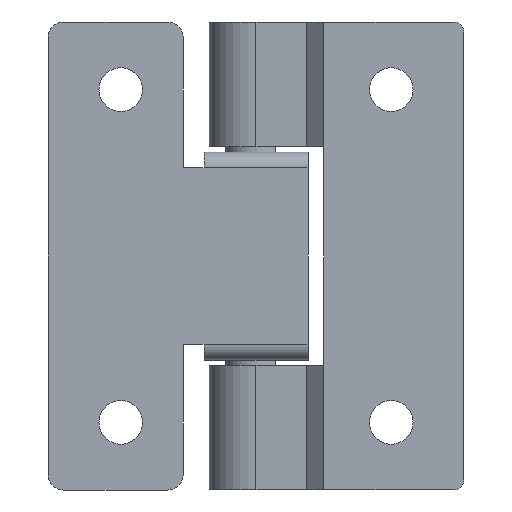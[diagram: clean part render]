
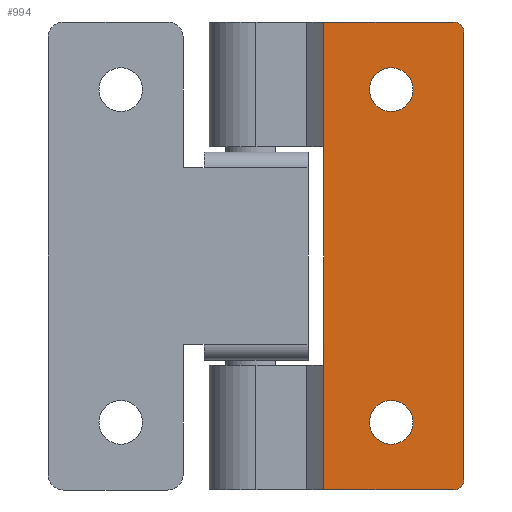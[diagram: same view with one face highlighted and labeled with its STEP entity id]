
A CAD part, front view. The second image highlights one B-rep face of the part: STEP entity #994.
In plain terms, the highlighted planar face has unit normal (0, -1, 0).
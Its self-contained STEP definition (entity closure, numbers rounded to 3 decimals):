
#137 = CARTESIAN_POINT ( 'NONE',  ( 13., -6., 16. ) ) ;
#418 = DIRECTION ( 'NONE',  ( 0., 0., -1. ) ) ;
#437 = EDGE_CURVE ( 'NONE', #1807, #2789, #592, .T. ) ;
#565 = EDGE_LOOP ( 'NONE', ( #10147, #3351 ) ) ;
#592 = LINE ( 'NONE', #4096, #5525 ) ;
#809 = EDGE_CURVE ( 'NONE', #3882, #8980, #2208, .T. ) ;
#928 = VERTEX_POINT ( 'NONE', #5814 ) ;
#955 = AXIS2_PLACEMENT_3D ( 'NONE', #2352, #2524, #4277 ) ;
#994 = ADVANCED_FACE ( 'NONE', ( #11157, #1544, #6826 ), #5973, .F. ) ;
#1079 = LINE ( 'NONE', #6294, #1320 ) ;
#1143 = EDGE_CURVE ( 'NONE', #6778, #4264, #8092, .T. ) ;
#1149 = AXIS2_PLACEMENT_3D ( 'NONE', #8565, #11070, #6905 ) ;
#1256 = ORIENTED_EDGE ( 'NONE', *, *, #6813, .F. ) ;
#1272 = CARTESIAN_POINT ( 'NONE',  ( 6.5, -6., 22.5 ) ) ;
#1320 = VECTOR ( 'NONE', #1974, 1000. ) ;
#1439 = EDGE_LOOP ( 'NONE', ( #3232, #1585, #9322, #10801, #8422, #2007, #1256, #10160 ) ) ;
#1494 = DIRECTION ( 'NONE',  ( 1., 0., 0. ) ) ;
#1504 = LINE ( 'NONE', #5017, #7642 ) ;
#1510 = CARTESIAN_POINT ( 'NONE',  ( 6.5, -6., 10.5 ) ) ;
#1532 = ORIENTED_EDGE ( 'NONE', *, *, #2180, .T. ) ;
#1544 = FACE_BOUND ( 'NONE', #565, .T. ) ;
#1585 = ORIENTED_EDGE ( 'NONE', *, *, #8924, .T. ) ;
#1732 = CARTESIAN_POINT ( 'NONE',  ( 6.5, -6., 10.5 ) ) ;
#1779 = EDGE_CURVE ( 'NONE', #928, #4642, #1079, .T. ) ;
#1807 = VERTEX_POINT ( 'NONE', #5448 ) ;
#1880 = DIRECTION ( 'NONE',  ( 0., 1., 0. ) ) ;
#1953 = DIRECTION ( 'NONE',  ( 0., 0., 1. ) ) ;
#1974 = DIRECTION ( 'NONE',  ( 0., 0., -1. ) ) ;
#2007 = ORIENTED_EDGE ( 'NONE', *, *, #1779, .T. ) ;
#2180 = EDGE_CURVE ( 'NONE', #7441, #6814, #4630, .T. ) ;
#2208 = CIRCLE ( 'NONE', #955, 1. ) ;
#2315 = VERTEX_POINT ( 'NONE', #3501 ) ;
#2352 = CARTESIAN_POINT ( 'NONE',  ( 19., -6., 21.5 ) ) ;
#2524 = DIRECTION ( 'NONE',  ( 0., -1., 0. ) ) ;
#2789 = VERTEX_POINT ( 'NONE', #3298 ) ;
#3111 = EDGE_LOOP ( 'NONE', ( #10307, #1532 ) ) ;
#3232 = ORIENTED_EDGE ( 'NONE', *, *, #437, .T. ) ;
#3298 = CARTESIAN_POINT ( 'NONE',  ( 19., -6., -22.5 ) ) ;
#3351 = ORIENTED_EDGE ( 'NONE', *, *, #7239, .T. ) ;
#3365 = CIRCLE ( 'NONE', #11057, 2.1 ) ;
#3429 = CARTESIAN_POINT ( 'NONE',  ( 13., -6., 16. ) ) ;
#3442 = DIRECTION ( 'NONE',  ( 0., 0., 1. ) ) ;
#3501 = CARTESIAN_POINT ( 'NONE',  ( 20., -6., -21.5 ) ) ;
#3882 = VERTEX_POINT ( 'NONE', #8211 ) ;
#3946 = VECTOR ( 'NONE', #4343, 1000. ) ;
#4096 = CARTESIAN_POINT ( 'NONE',  ( 6.5, -6., -22.5 ) ) ;
#4257 = CARTESIAN_POINT ( 'NONE',  ( 6.5, -6., 22.5 ) ) ;
#4264 = VERTEX_POINT ( 'NONE', #8875 ) ;
#4277 = DIRECTION ( 'NONE',  ( 0., 0., 1. ) ) ;
#4343 = DIRECTION ( 'NONE',  ( 0., 0., 1. ) ) ;
#4470 = AXIS2_PLACEMENT_3D ( 'NONE', #8056, #7420, #1953 ) ;
#4630 = CIRCLE ( 'NONE', #1149, 2.1 ) ;
#4642 = VERTEX_POINT ( 'NONE', #1732 ) ;
#4846 = EDGE_CURVE ( 'NONE', #6814, #7441, #7005, .T. ) ;
#4900 = CIRCLE ( 'NONE', #11270, 1. ) ;
#4996 = EDGE_CURVE ( 'NONE', #928, #8980, #8477, .T. ) ;
#5017 = CARTESIAN_POINT ( 'NONE',  ( 20., -6., 22.5 ) ) ;
#5024 = CARTESIAN_POINT ( 'NONE',  ( 13., -6., -13.9 ) ) ;
#5142 = CARTESIAN_POINT ( 'NONE',  ( 13., -6., 18.1 ) ) ;
#5172 = AXIS2_PLACEMENT_3D ( 'NONE', #9454, #1880, #7816 ) ;
#5200 = LINE ( 'NONE', #1510, #3946 ) ;
#5448 = CARTESIAN_POINT ( 'NONE',  ( 6.5, -6., -22.5 ) ) ;
#5525 = VECTOR ( 'NONE', #1494, 1000. ) ;
#5571 = CARTESIAN_POINT ( 'NONE',  ( 13., -6., -18.1 ) ) ;
#5630 = LINE ( 'NONE', #1272, #9222 ) ;
#5713 = EDGE_CURVE ( 'NONE', #7195, #1807, #5630, .T. ) ;
#5814 = CARTESIAN_POINT ( 'NONE',  ( 6.5, -6., 22.5 ) ) ;
#5887 = CARTESIAN_POINT ( 'NONE',  ( 6.5, -6., -10.5 ) ) ;
#5967 = DIRECTION ( 'NONE',  ( 1., 0., 0. ) ) ;
#5973 = PLANE ( 'NONE',  #5172 ) ;
#6252 = AXIS2_PLACEMENT_3D ( 'NONE', #3429, #9624, #7166 ) ;
#6279 = DIRECTION ( 'NONE',  ( 0., -1., 0. ) ) ;
#6294 = CARTESIAN_POINT ( 'NONE',  ( 6.5, -6., 22.5 ) ) ;
#6778 = VERTEX_POINT ( 'NONE', #5142 ) ;
#6813 = EDGE_CURVE ( 'NONE', #7195, #4642, #5200, .T. ) ;
#6814 = VERTEX_POINT ( 'NONE', #5024 ) ;
#6826 = FACE_OUTER_BOUND ( 'NONE', #1439, .T. ) ;
#6905 = DIRECTION ( 'NONE',  ( 0., 0., 1. ) ) ;
#7005 = CIRCLE ( 'NONE', #4470, 2.1 ) ;
#7133 = DIRECTION ( 'NONE',  ( 0., 0., 1. ) ) ;
#7166 = DIRECTION ( 'NONE',  ( 0., 0., 1. ) ) ;
#7195 = VERTEX_POINT ( 'NONE', #5887 ) ;
#7239 = EDGE_CURVE ( 'NONE', #4264, #6778, #3365, .T. ) ;
#7420 = DIRECTION ( 'NONE',  ( 0., 1., 0. ) ) ;
#7441 = VERTEX_POINT ( 'NONE', #5571 ) ;
#7642 = VECTOR ( 'NONE', #11009, 1000. ) ;
#7816 = DIRECTION ( 'NONE',  ( 0., 0., 1. ) ) ;
#7949 = VECTOR ( 'NONE', #5967, 1000. ) ;
#8056 = CARTESIAN_POINT ( 'NONE',  ( 13., -6., -16. ) ) ;
#8092 = CIRCLE ( 'NONE', #6252, 2.1 ) ;
#8211 = CARTESIAN_POINT ( 'NONE',  ( 20., -6., 21.5 ) ) ;
#8422 = ORIENTED_EDGE ( 'NONE', *, *, #4996, .F. ) ;
#8477 = LINE ( 'NONE', #4257, #7949 ) ;
#8565 = CARTESIAN_POINT ( 'NONE',  ( 13., -6., -16. ) ) ;
#8875 = CARTESIAN_POINT ( 'NONE',  ( 13., -6., 13.9 ) ) ;
#8924 = EDGE_CURVE ( 'NONE', #2789, #2315, #4900, .T. ) ;
#8980 = VERTEX_POINT ( 'NONE', #10631 ) ;
#9222 = VECTOR ( 'NONE', #418, 1000. ) ;
#9314 = EDGE_CURVE ( 'NONE', #3882, #2315, #1504, .T. ) ;
#9322 = ORIENTED_EDGE ( 'NONE', *, *, #9314, .F. ) ;
#9454 = CARTESIAN_POINT ( 'NONE',  ( 6.5, -6., 22.5 ) ) ;
#9590 = CARTESIAN_POINT ( 'NONE',  ( 19., -6., -21.5 ) ) ;
#9624 = DIRECTION ( 'NONE',  ( 0., 1., 0. ) ) ;
#10147 = ORIENTED_EDGE ( 'NONE', *, *, #1143, .T. ) ;
#10160 = ORIENTED_EDGE ( 'NONE', *, *, #5713, .T. ) ;
#10307 = ORIENTED_EDGE ( 'NONE', *, *, #4846, .T. ) ;
#10631 = CARTESIAN_POINT ( 'NONE',  ( 19., -6., 22.5 ) ) ;
#10801 = ORIENTED_EDGE ( 'NONE', *, *, #809, .T. ) ;
#11009 = DIRECTION ( 'NONE',  ( 0., 0., -1. ) ) ;
#11057 = AXIS2_PLACEMENT_3D ( 'NONE', #137, #11287, #3442 ) ;
#11070 = DIRECTION ( 'NONE',  ( 0., 1., 0. ) ) ;
#11157 = FACE_BOUND ( 'NONE', #3111, .T. ) ;
#11270 = AXIS2_PLACEMENT_3D ( 'NONE', #9590, #6279, #7133 ) ;
#11287 = DIRECTION ( 'NONE',  ( 0., 1., 0. ) ) ;
